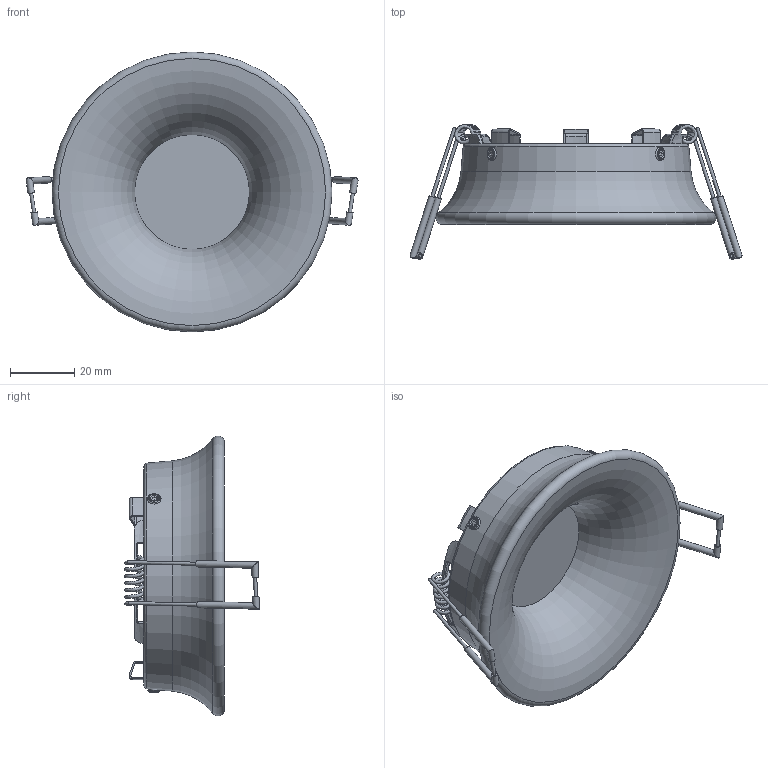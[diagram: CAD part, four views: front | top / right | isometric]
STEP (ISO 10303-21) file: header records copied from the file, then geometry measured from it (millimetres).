
FILE_DESCRIPTION(/* description */ (''),/* implementation_level */ '2;1');
FILE_NAME(/* name */ 'C:/Users/kubaw/OneDrive/Pulpit/3D/JAKUB_WIECZORKOWSKI_MAJ_PACZKA/OK/3500_EYE v5.step',/* time_stamp */ '2021-06-16T16:02:05+02:00',/* author */ (''),/* organization */ (''),/* preprocessor_version */ 'ST-DEVELOPER v18.1',/* originating_system */ 'Autodesk Translation Framework v10.9.0.1377',/* authorisation */ '');
FILE_SCHEMA (('AUTOMOTIVE_DESIGN { 1 0 10303 214 3 1 1 }'));
Length unit declared in the file: millimetre
Products named in the file (1): 3500_EYE
Bounding box: 103.15 x 41.83 x 86.99 mm (x, y, z)
Volume: 66433.9 mm3; surface area: 26806.1 mm2
Topology: 31 solids, 31 shells, 314 faces, 725 edges, 472 vertices
Faces by surface type: cylinder 116, plane 115, bspline 36, torus 31, cone 16
Full cylindrical faces by diameter (mm): 0.4 x8, 1 x14, 2 x8, 2.5 x3, 53 x1
Entity records: 12773 total; most frequent: CARTESIAN_POINT 5466, DIRECTION 1560, ORIENTED_EDGE 1450, EDGE_CURVE 725, AXIS2_PLACEMENT_3D 626, VERTEX_POINT 472, EDGE_LOOP 329, FACE_OUTER_BOUND 314
